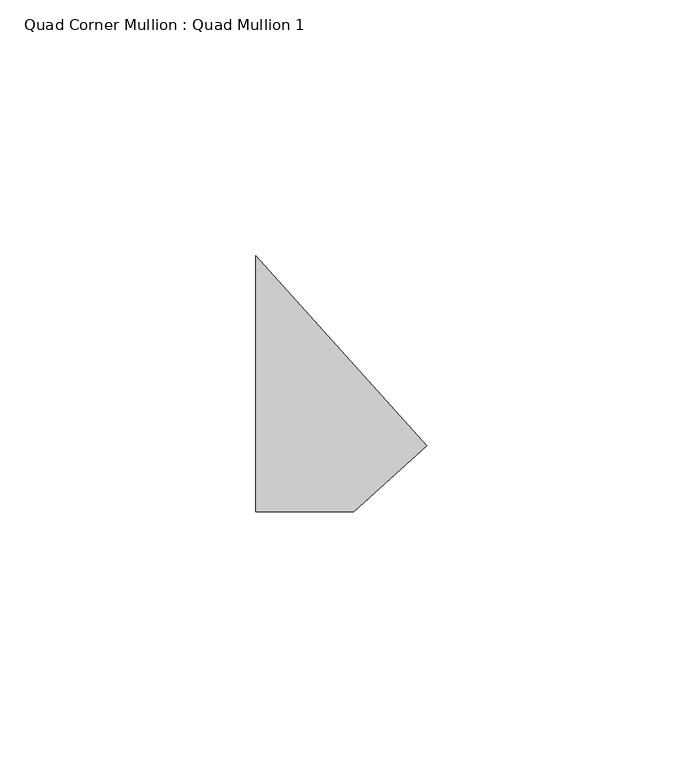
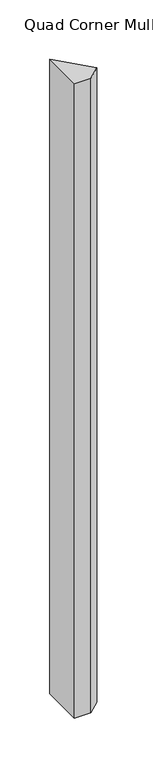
"""IFC4 building model written with IfcOpenShell, lengths in millimetres: member geometry, Quad Corner Mullion : Quad Mullion 1."""

from ifc_helpers import new_model, si_unit, frame, origin, place, context, project, spatial, polyline, outline, extrude, source, transform, mapped, element, save


def quad_corner_mullion_quad_mullion_1_4fbf7cc7(model_context):
    return source(origin(), model_context, "Body", "SweptSolid", [
        extrude(outline(polyline([(23.8599294, -12.1572413), (9.5966009, -25.0), (-9.5966009, -25.0), (-9.5966009, 25.0), (23.8599294, -12.1572413)])), frame((0.0, 0.0, -780.0), z_axis=(0.0, 0.0, 1.0), x_axis=(1.0, 0.0, 0.0)), (0.0, 0.0, 1.0), 780.0),
    ])


if __name__ == "__main__":
    model = new_model("IFC4")
    model_context = context("Model", 3, world=origin())
    ifc_project = project(units=[si_unit("LENGTHUNIT", "METRE", prefix="MILLI")], contexts=[model_context])
    site = spatial("IfcSite", under=ifc_project)
    building = spatial("IfcBuilding", under=site)
    placement = place(None, origin())
    quad_corner_mullion_quad_mullion_1_shape = quad_corner_mullion_quad_mullion_1_4fbf7cc7(model_context)
    element("IfcMember", 1, ObjectType="Quad Corner Mullion : Quad Mullion 1", at=placement, inside=building, context=model_context, shape_type="MappedRepresentation", body=[
        mapped(quad_corner_mullion_quad_mullion_1_shape, transform((0.0, 0.0, 0.0), x_axis=(1.0, 0.0, 0.0), y_axis=(0.0, 1.0, 0.0), z_axis=(0.0, 0.0, 1.0))),
    ])
    save(model, "model.ifc")
